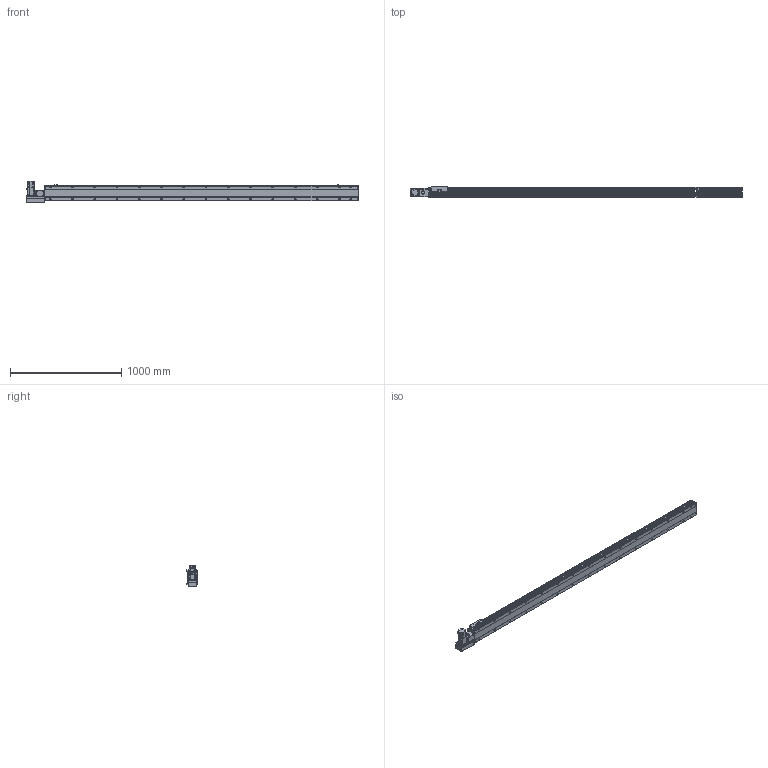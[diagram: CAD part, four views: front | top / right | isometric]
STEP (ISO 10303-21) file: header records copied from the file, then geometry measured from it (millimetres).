
FILE_DESCRIPTION( ( 'STEP AP214' ), '1' );
FILE_NAME( 'x:/temp/worker_6/temp/exporttempdir_5396_32_HAI8F/format_0/PBS140S-P40-S2550-L-T40-C1-N(0).stp', '2022-06-09T00:04:37', ( 'License CC BY-ND 4.0' ), ( 'CADENAS' ), ' ', 'PARTsolutions', ' ' );
FILE_SCHEMA( ( 'AUTOMOTIVE_DESIGN { 1 0 10303 214 1 1 1 1 }' ) );
Length unit declared in the file: millimetre
Products named in the file (7): PBS140S-P40-S2550-L-T40-C1-N(0); _PBS140S-S2550()_body; _PBS140ST-L_motors; _T40-p1; _PBS140S_sliser; _PBS140S_plant; _PBS140S_sensor
Assembly tree (8 placements, depth 2):
  PBS140S-P40-S2550-L-T40-C1-N(0)
    _PBS140S-S2550()_body
    _PBS140ST-L_motors
    _T40-p1
    _PBS140S_sliser
    _PBS140S_plant
    _PBS140S_sensor  x3
Bounding box: 2983 x 93 x 189.7 mm (x, y, z)
Volume: 14097068.1 mm3; surface area: 2374368.2 mm2
Topology: 8 solids, 8 shells, 1211 faces, 3191 edges, 2087 vertices
Faces by surface type: plane 744, cylinder 401, cone 56, sphere 8, torus 2
Full cylindrical faces by diameter (mm): 3.242 x4, 4 x2, 4.134 x4, 4.4 x8, 4.5 x2, 4.8 x4, 4.917 x38, 5.5 x7, 6 x2, 7 x32, 7.5 x8, 8 x12, 8.5 x4, 10.5 x30, 14 x1, 30 x2, 50 x2
Entity records: 44830 total; most frequent: CARTESIAN_POINT 7582, DIRECTION 5838, ORIENTED_EDGE 5482, EDGE_CURVE 2741, AXIS2_PLACEMENT_3D 2069, VERTEX_POINT 1921, LINE 1700, VECTOR 1700
